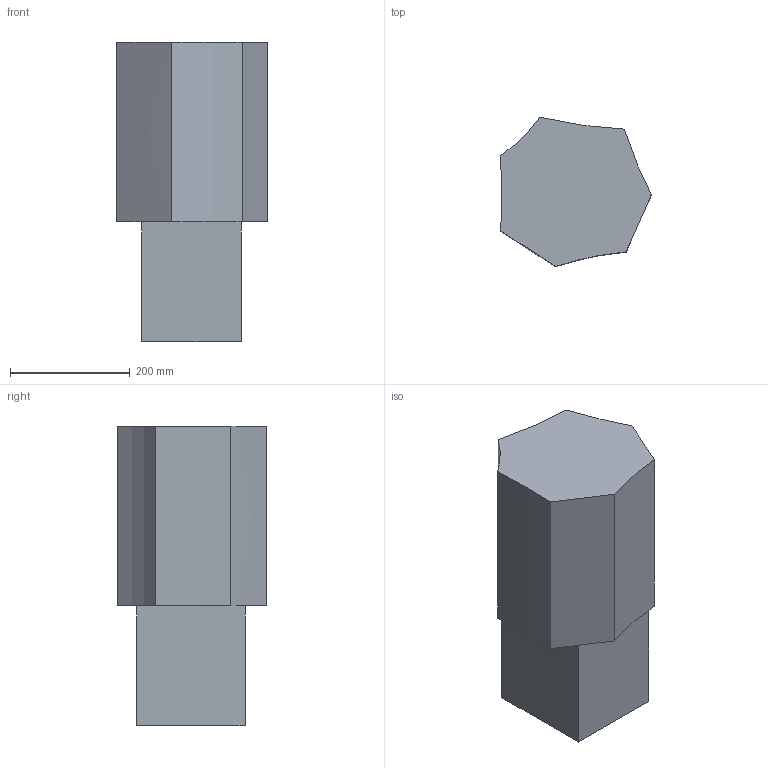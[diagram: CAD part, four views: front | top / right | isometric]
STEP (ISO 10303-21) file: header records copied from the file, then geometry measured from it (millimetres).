
FILE_DESCRIPTION(/* description */ (''),/* implementation_level */ '2;1');
FILE_NAME(/* name */ 'Quartz',/* time_stamp */ '2022-02-07T13:42:12+01:00',/* author */ (''),/* organization */ (''),/* preprocessor_version */ 'ST-DEVELOPER v15',/* originating_system */ '',/* authorisation */ '');
FILE_SCHEMA (('AUTOMOTIVE_DESIGN'));
Length unit declared in the file: millimetre
Products named in the file (1): Document
Bounding box: 251.75 x 249.53 x 500 mm (x, y, z)
Volume: 20265022.8 mm3; surface area: 538065.5 mm2
Topology: 2 solids, 2 shells, 15 faces, 33 edges, 22 vertices
Faces by surface type: plane 8, bspline 7
Entity records: 412 total; most frequent: CARTESIAN_POINT 154, ORIENTED_EDGE 66, EDGE_CURVE 33, B_SPLINE_CURVE_WITH_KNOTS 33, VERTEX_POINT 22, ADVANCED_FACE 15, FACE_OUTER_BOUND 15, EDGE_LOOP 15
